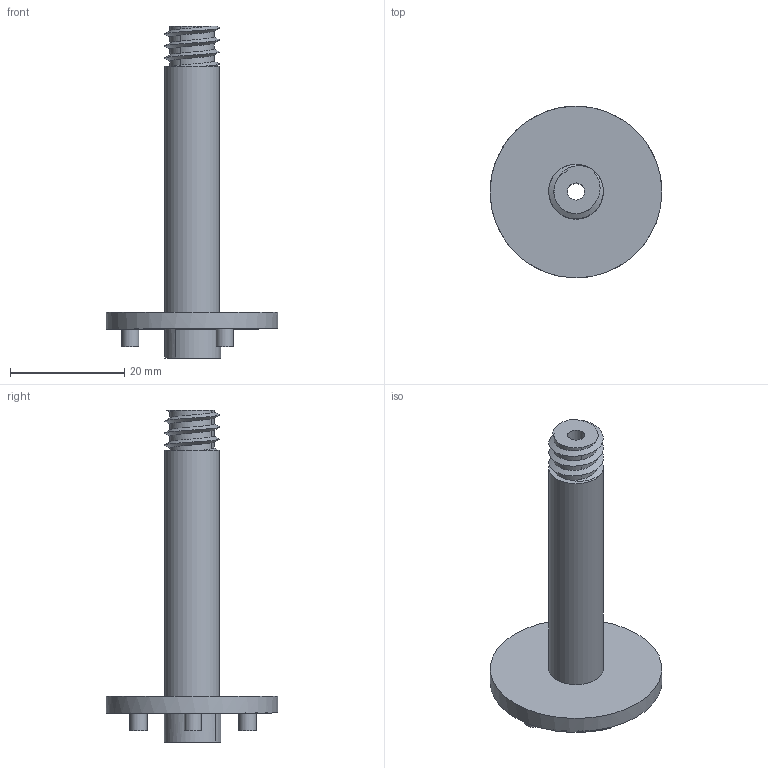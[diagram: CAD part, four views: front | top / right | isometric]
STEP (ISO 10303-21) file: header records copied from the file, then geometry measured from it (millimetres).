
FILE_DESCRIPTION(/* description */ (''),/* implementation_level */ '2;1');
FILE_NAME(/* name */ 'outershaft FP.step',/* time_stamp */ '2025-06-18T12:21:32+05:30',/* author */ (''),/* organization */ (''),/* preprocessor_version */ 'ST-DEVELOPER v20.1',/* originating_system */ 'Autodesk Translation Framework v14.10.0.0',/* authorisation */ '');
FILE_SCHEMA (('AUTOMOTIVE_DESIGN { 1 0 10303 214 3 1 1 }'));
Length unit declared in the file: millimetre
Products named in the file (2): base; Stem
Assembly tree (1 placements, depth 2):
  base
    Stem
Bounding box: 30 x 30 x 58 mm (x, y, z)
Volume: 5477.2 mm3; surface area: 4046.8 mm2
Topology: 1 solids, 1 shells, 26 faces, 57 edges, 37 vertices
Faces by surface type: cylinder 14, plane 10, bspline 2
Full cylindrical faces by diameter (mm): 3 x4, 7.72 x3, 9.54 x1, 10 x1, 30 x1
Entity records: 1596 total; most frequent: CARTESIAN_POINT 963, DIRECTION 121, ORIENTED_EDGE 110, EDGE_CURVE 55, AXIS2_PLACEMENT_3D 53, VERTEX_POINT 36, EDGE_LOOP 33, FACE_OUTER_BOUND 26
